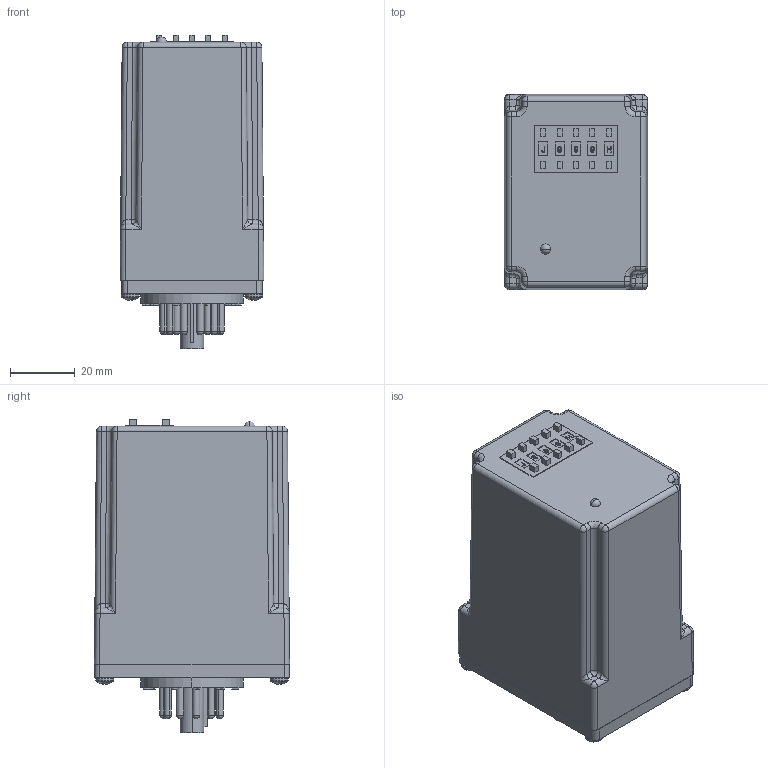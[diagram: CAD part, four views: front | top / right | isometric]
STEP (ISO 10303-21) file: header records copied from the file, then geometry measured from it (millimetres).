
FILE_DESCRIPTION (( 'STEP AP203' ), '1' );
FILE_NAME ('TD-7-Multi Function.step', '2014-09-05T02:53:14', ( 'JLohr' ), ( '' ), 'SwSTEP 2.0', 'SolidWorks 2007', '' );
FILE_SCHEMA (( 'CONFIG_CONTROL_DESIGN' ));
Length unit declared in the file: inch
Products named in the file (1): TD-7-Multi Function
Bounding box: 44.45 x 60.33 x 96.9 mm (x, y, z)
Volume: 200925.2 mm3; surface area: 29347.4 mm2
Topology: 24 solids, 24 shells, 889 faces, 2337 edges, 1500 vertices
Faces by surface type: plane 364, cylinder 274, bspline 175, cone 40, sphere 36
Entity records: 41610 total; most frequent: CARTESIAN_POINT 21930, ORIENTED_EDGE 4546, DIRECTION 3261, EDGE_CURVE 2273, VERTEX_POINT 1476, LINE 1167, VECTOR 1167, AXIS2_PLACEMENT_3D 1047
